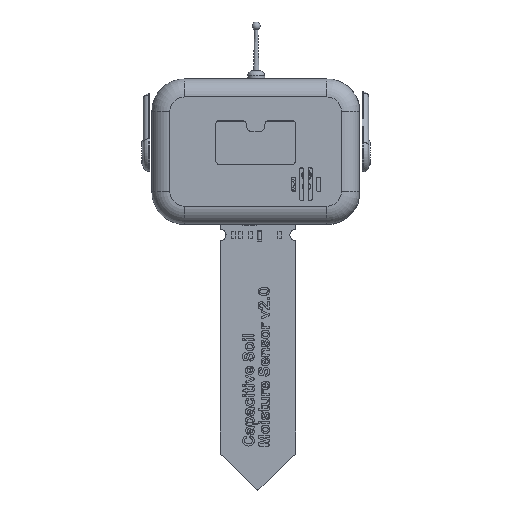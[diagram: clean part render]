
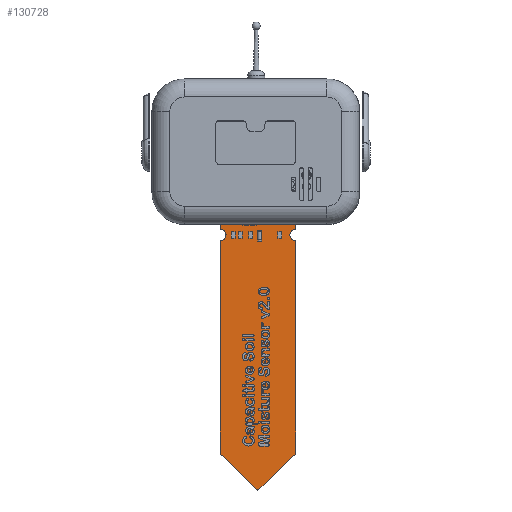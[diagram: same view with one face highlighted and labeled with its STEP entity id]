
A CAD part, top view. The second image highlights one B-rep face of the part: STEP entity #130728.
In plain terms, the highlighted planar face has unit normal (0, 0, 1) as drawn and (0, 1, 0) by its records, which use the part's own axes.
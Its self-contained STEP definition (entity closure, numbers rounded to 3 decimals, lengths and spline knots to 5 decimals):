
#7462=LINE('',#202353,#19285);
#7466=LINE('',#202365,#19289);
#7469=LINE('',#202371,#19292);
#7472=LINE('',#202377,#19295);
#7476=LINE('',#202389,#19299);
#7479=LINE('',#202395,#19302);
#7482=LINE('',#202400,#19305);
#19285=VECTOR('',#161490,1.);
#19289=VECTOR('',#161502,1.);
#19292=VECTOR('',#161507,1.);
#19295=VECTOR('',#161512,1.);
#19299=VECTOR('',#161524,1.);
#19302=VECTOR('',#161529,1.);
#19305=VECTOR('',#161534,1.);
#33084=PLANE('',#145177);
#47082=ORIENTED_EDGE('',*,*,#80521,.T.);
#47083=ORIENTED_EDGE('',*,*,#80518,.T.);
#47084=ORIENTED_EDGE('',*,*,#80515,.T.);
#47085=ORIENTED_EDGE('',*,*,#80512,.T.);
#47086=ORIENTED_EDGE('',*,*,#80509,.T.);
#47087=ORIENTED_EDGE('',*,*,#80506,.T.);
#47088=ORIENTED_EDGE('',*,*,#80503,.T.);
#47089=ORIENTED_EDGE('',*,*,#80500,.T.);
#47090=ORIENTED_EDGE('',*,*,#80497,.T.);
#80497=EDGE_CURVE('',#98179,#98178,#7462,.F.);
#80500=EDGE_CURVE('',#98181,#98179,#108705,.F.);
#80503=EDGE_CURVE('',#98183,#98181,#7466,.F.);
#80506=EDGE_CURVE('',#98185,#98183,#7469,.F.);
#80509=EDGE_CURVE('',#98187,#98185,#7472,.T.);
#80512=EDGE_CURVE('',#98189,#98187,#108707,.F.);
#80515=EDGE_CURVE('',#98191,#98189,#7476,.T.);
#80518=EDGE_CURVE('',#98193,#98191,#7479,.T.);
#80521=EDGE_CURVE('',#98178,#98193,#7482,.T.);
#98178=VERTEX_POINT('',#202352);
#98179=VERTEX_POINT('',#202354);
#98181=VERTEX_POINT('',#202360);
#98183=VERTEX_POINT('',#202366);
#98185=VERTEX_POINT('',#202372);
#98187=VERTEX_POINT('',#202378);
#98189=VERTEX_POINT('',#202384);
#98191=VERTEX_POINT('',#202390);
#98193=VERTEX_POINT('',#202396);
#108705=CIRCLE('',#145167,0.00175);
#108707=CIRCLE('',#145173,0.00175);
#113345=EDGE_LOOP('',(#47082,#47083,#47084,#47085,#47086,#47087,#47088,
#47089,#47090));
#121253=FACE_BOUND('',#113345,.T.);
#130728=ADVANCED_FACE('',(#121253),#33084,.T.);
#145167=AXIS2_PLACEMENT_3D('',#202359,#161496,#161497);
#145173=AXIS2_PLACEMENT_3D('',#202383,#161518,#161519);
#145177=AXIS2_PLACEMENT_3D('',#202401,#161535,#161536);
#161490=DIRECTION('',(0.,0.,-1.));
#161496=DIRECTION('',(0.,1.,0.));
#161497=DIRECTION('',(0.,0.,1.));
#161502=DIRECTION('',(0.,0.,-1.));
#161507=DIRECTION('',(1.,0.,0.));
#161512=DIRECTION('',(0.,0.,-1.));
#161518=DIRECTION('',(0.,1.,0.));
#161519=DIRECTION('',(0.,0.,1.));
#161524=DIRECTION('',(0.,0.,-1.));
#161529=DIRECTION('',(0.723,0.,-0.691));
#161534=DIRECTION('',(0.723,0.,0.691));
#161535=DIRECTION('',(0.,1.,0.));
#161536=DIRECTION('',(1.,0.,0.));
#202352=CARTESIAN_POINT('',(-0.0115,0.001,0.038));
#202353=CARTESIAN_POINT('',(-0.0115,0.001,0.));
#202354=CARTESIAN_POINT('',(-0.0115,0.001,-0.02725));
#202359=CARTESIAN_POINT('',(-0.0115,0.001,-0.029));
#202360=CARTESIAN_POINT('',(-0.0115,0.001,-0.03075));
#202365=CARTESIAN_POINT('',(-0.0115,0.001,0.));
#202366=CARTESIAN_POINT('',(-0.0115,0.001,-0.049));
#202371=CARTESIAN_POINT('',(0.,0.001,-0.049));
#202372=CARTESIAN_POINT('',(0.0115,0.001,-0.049));
#202377=CARTESIAN_POINT('',(0.0115,0.001,0.));
#202378=CARTESIAN_POINT('',(0.0115,0.001,-0.03075));
#202383=CARTESIAN_POINT('',(0.0115,0.001,-0.029));
#202384=CARTESIAN_POINT('',(0.0115,0.001,-0.02725));
#202389=CARTESIAN_POINT('',(0.0115,0.001,0.));
#202390=CARTESIAN_POINT('',(0.0115,0.001,0.038));
#202395=CARTESIAN_POINT('',(0.,0.001,0.049));
#202396=CARTESIAN_POINT('',(0.,0.001,0.049));
#202400=CARTESIAN_POINT('',(-0.0115,0.001,0.038));
#202401=CARTESIAN_POINT('',(0.,0.001,0.));
